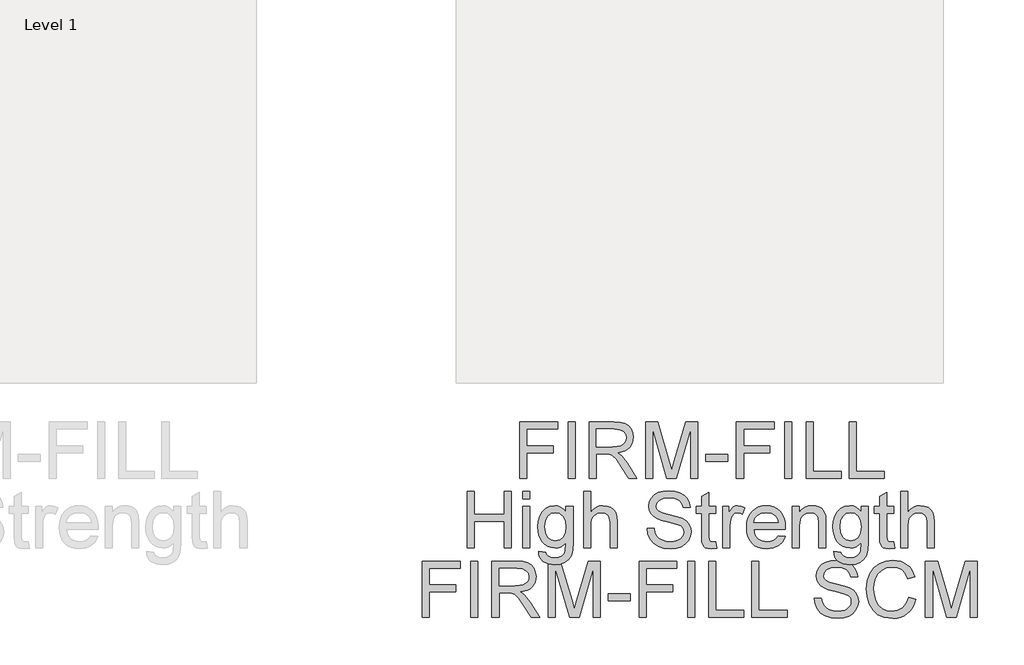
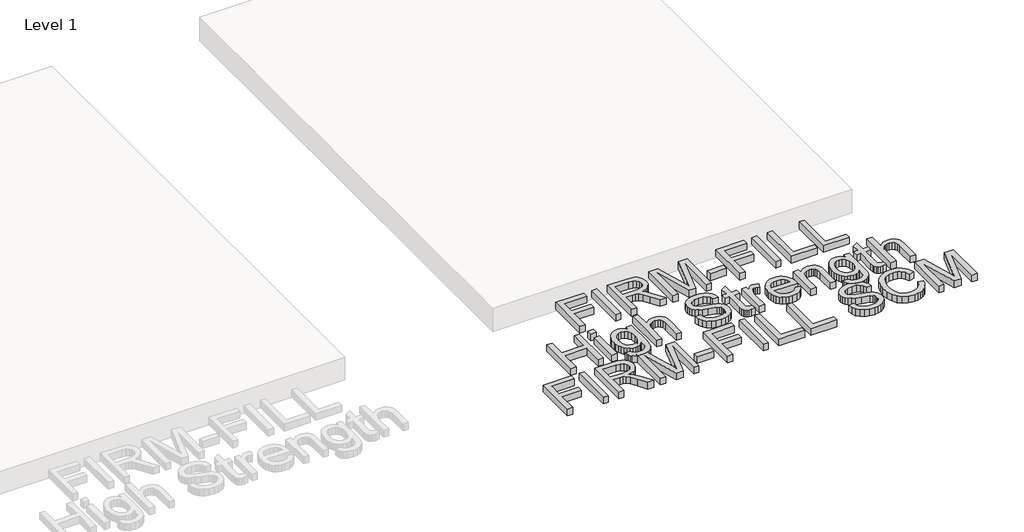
# One storey, part 2 of 2: 1 proxy.
"""IFC4 building model written with IfcOpenShell, lengths in millimetres."""

import ifcopenshell
import ifcopenshell.guid

model = None  # the IFC model being written
_history = None  # IfcOwnerHistory: only IFC2X3 demands one
_inside = {}  # id of a spatial element -> (the spatial element, [elements in it])
_under = {}  # id of a project, library or spatial element -> (it, [spatial elements below it])
_declared = {}  # id of a project -> (the project, [libraries it declares])
_typed = {}  # id of a type object -> (the type object, [elements of that type])
_made_of = {}  # id of a material, layer set ... -> (it, [elements and type objects made of it])


def new_model(schema):
    """Start an empty IFC model of exactly this schema.

    Asked for "IFC4X3", IfcOpenShell would pick the latest addendum, in which some entities
    have other attributes; the version numbers below select the first issue.
    IFC2X3 requires an IfcOwnerHistory on every rooted entity: one is made here for all.
    """
    global model, _history
    if schema == "IFC4X3":
        model = ifcopenshell.file(schema_version=(4, 3, 0, 0))
    else:
        model = ifcopenshell.file(schema=schema)
    _inside.clear()
    _under.clear()
    _declared.clear()
    _typed.clear()
    _made_of.clear()
    _history = None
    if model.schema == "IFC2X3":
        org = make("IfcOrganization", Name="unknown")
        user = make(
            "IfcPersonAndOrganization",
            ThePerson=make("IfcPerson", FamilyName="unknown"),
            TheOrganization=org,
        )
        app = make(
            "IfcApplication",
            ApplicationDeveloper=org,
            Version="unknown",
            ApplicationFullName="unknown",
            ApplicationIdentifier="unknown",
        )
        _history = make(
            "IfcOwnerHistory",
            OwningUser=user,
            OwningApplication=app,
            ChangeAction="ADDED",
            CreationDate=0,
        )
    return model


def make(cls, **values):
    """One entity of the class cls with the attributes given. An attribute that is None is left unset."""
    return model.create_entity(
        cls, **{name: value for name, value in values.items() if value is not None}
    )


def rooted(cls, **values):
    """An entity with a GlobalId (a new one), such as an element, a storey or a relation."""
    return make(cls, GlobalId=ifcopenshell.guid.new(), OwnerHistory=_history, **values)


def si_unit(unit_type, name, prefix=None):
    """IfcSIUnit, for example si_unit("LENGTHUNIT", "METRE", prefix="MILLI")."""
    return make("IfcSIUnit", UnitType=unit_type, Prefix=prefix, Name=name)


def assignment(units):
    """IfcUnitAssignment: the units of a project."""
    return None if units is None else make("IfcUnitAssignment", Units=units)


def point(xyz):
    """IfcCartesianPoint."""
    return None if xyz is None else make("IfcCartesianPoint", Coordinates=xyz)


def direction(xyz):
    """IfcDirection."""
    return None if xyz is None else make("IfcDirection", DirectionRatios=xyz)


def frame(location, z_axis=None, x_axis=None):
    """IfcAxis2Placement3D, a coordinate frame: its origin and axes. An axis left out is left unset."""
    return make(
        "IfcAxis2Placement3D",
        Location=point(location),
        Axis=direction(z_axis),
        RefDirection=direction(x_axis),
    )


def origin():
    """The frame at (0, 0, 0) with its axes left unset."""
    return frame((0.0, 0.0, 0.0))


def origin_with_axes():
    """The frame at (0, 0, 0) with the z axis (0, 0, 1) and the x axis (1, 0, 0) written out."""
    return frame((0.0, 0.0, 0.0), z_axis=(0.0, 0.0, 1.0), x_axis=(1.0, 0.0, 0.0))


def place(relative_to, where):
    """IfcLocalPlacement: puts the frame where relative to a parent placement (None: the world)."""
    return make(
        "IfcLocalPlacement", PlacementRelTo=relative_to, RelativePlacement=where
    )


def context(
    kind, dimensions, precision=None, world=None, true_north=None, identifier=None
):
    """IfcGeometricRepresentationContext, for example the 3D "Model" context."""
    return make(
        "IfcGeometricRepresentationContext",
        ContextIdentifier=identifier,
        ContextType=kind,
        CoordinateSpaceDimension=dimensions,
        Precision=precision,
        WorldCoordinateSystem=world,
        TrueNorth=true_north,
    )


def project(units=None, contexts=None):
    """IfcProject with its units and contexts."""
    return rooted(
        "IfcProject",
        Name="project",
        RepresentationContexts=contexts,
        UnitsInContext=assignment(units),
    )


def spatial(cls, under=None, at=None, **own):
    """A site, building, storey or space (cls), placed at a placement, below another one or the project."""
    s = rooted(cls, ObjectPlacement=at, **own)
    if under is not None:
        _under.setdefault(under.id(), (under, []))[1].append(s)
    return s


def polyline(points):
    """IfcPolyline through the points."""
    return make("IfcPolyline", Points=[point(p) for p in points])


def outline(outer, holes=None, kind="AREA"):
    """IfcArbitraryClosedProfileDef: a profile drawn as a closed curve; with holes, ...WithVoids."""
    if holes is None:
        return make("IfcArbitraryClosedProfileDef", ProfileType=kind, OuterCurve=outer)
    return make(
        "IfcArbitraryProfileDefWithVoids",
        ProfileType=kind,
        OuterCurve=outer,
        InnerCurves=holes,
    )


def extrude(swept, where, along, depth):
    """IfcExtrudedAreaSolid: the profile swept, set in the frame where, extruded along a direction by depth."""
    return make(
        "IfcExtrudedAreaSolid",
        SweptArea=swept,
        Position=where,
        ExtrudedDirection=direction(along),
        Depth=depth,
    )


def shape(context_of_items, identifier, shape_type, items):
    """IfcShapeRepresentation: the items that make up one representation, for example the "Body"."""
    return make(
        "IfcShapeRepresentation",
        ContextOfItems=context_of_items,
        RepresentationIdentifier=identifier,
        RepresentationType=shape_type,
        Items=items,
    )


def made_of(thing, what):
    """Note that an element or type object is made of a material, layer set ...; save() writes the relation."""
    if what is not None:
        _made_of.setdefault(what.id(), (what, []))[1].append(thing)
    return thing


def element(
    cls,
    number,
    at=None,
    inside=None,
    cuts=None,
    type_object=None,
    material=None,
    context=None,
    identifier="Body",
    shape_type=None,
    held_by="IfcProductDefinitionShape",
    body=None,
    shapes=None,
    **own,
):
    """One element of the class cls, such as IfcWall. Its Tag is "e" and its number.

    at: its placement. inside: the storey or other place that contains it. cuts: it is an
    opening in that element (IfcRelVoidsElement). A single representation is given by context,
    identifier, shape_type and body (its items); several are given by shapes. held_by: the class
    of the entity that holds the representations. save() writes the other relations.
    """
    e = rooted(cls, Tag="e%d" % number, ObjectPlacement=at, **own)
    if body is not None:
        shapes = [shape(context, identifier, shape_type, body)]
    if shapes is not None:
        e.Representation = make(held_by, Representations=shapes)
    if inside is not None:
        _inside.setdefault(inside.id(), (inside, []))[1].append(e)
    if cuts is not None:
        rooted(
            "IfcRelVoidsElement", RelatingBuildingElement=cuts, RelatedOpeningElement=e
        )
    if type_object is not None:
        _typed.setdefault(type_object.id(), (type_object, []))[1].append(e)
    return made_of(e, material)


def aggregate(whole, parts):
    """IfcRelAggregates: a whole, such as a stair, and the parts it consists of."""
    return rooted("IfcRelAggregates", RelatingObject=whole, RelatedObjects=parts)


def save(model, path):
    """Write the relations noted so far, then the file.

    IfcRelAggregates (storeys below a building ...), IfcRelContainedInSpatialStructure (elements
    in a storey), IfcRelDefinesByType, IfcRelAssociatesMaterial and IfcRelDeclares: one each for
    every whole, place, type object, material and project.
    """
    for whole, parts in _under.values():
        aggregate(whole, parts)
    for where, things in _inside.values():
        rooted(
            "IfcRelContainedInSpatialStructure",
            RelatedElements=things,
            RelatingStructure=where,
        )
    for kind, things in _typed.values():
        rooted("IfcRelDefinesByType", RelatedObjects=things, RelatingType=kind)
    for what, things in _made_of.values():
        rooted("IfcRelAssociatesMaterial", RelatedObjects=things, RelatingMaterial=what)
    for by, libraries in _declared.values():
        rooted("IfcRelDeclares", RelatingContext=by, RelatedDefinitions=libraries)
    model.write(path)


model = new_model("IFC4")

# Units and contexts
model_context = context("Model", 3, world=origin())
ifc_project = project(units=[si_unit("LENGTHUNIT", "METRE", prefix="MILLI")], contexts=[model_context])

# Site, building, storey
site = spatial("IfcSite", under=ifc_project)
building = spatial("IfcBuilding", under=site)
storey = spatial("IfcBuildingStorey", under=building, Name="Level 1", Elevation=0.0)

# Proxy
placement = place(None, origin())
element("IfcBuildingElementProxy", 1, Name="600mm Arial", ObjectType="600mm Arial", at=placement, inside=storey, context=model_context, shape_type="SweptSolid", body=[
    extrude(outline(polyline([(-8382.1227816, 282.4279894), (-8382.1227816, 582.5387586), (-8180.4858585, 582.5387586), (-8180.4858585, 545.0249125), (-8344.6089355, 545.0249125), (-8344.6089355, 455.9295279), (-8203.9320124, 455.9295279), (-8203.9320124, 418.4156817), (-8344.6089355, 418.4156817), (-8344.6089355, 282.4279894), (-8382.1227816, 282.4279894)])), origin_with_axes(), (0.0, 0.0, 1.0), 50.8),
    extrude(outline(polyline([(-8124.2150893, 282.4279894), (-8124.2150893, 582.5387586), (-8086.7012432, 582.5387586), (-8086.7012432, 282.4279894), (-8124.2150893, 282.4279894)])), origin_with_axes(), (0.0, 0.0, 1.0), 50.8),
    extrude(outline(polyline([(-8011.6735509, 282.4279894), (-8011.6735509, 582.5387586), (-7882.3533585, 582.5387586), (-7847.5962672, 580.5146961), (-7822.3092239, 574.4425086), (-7803.8270605, 563.2323163), (-7789.4846085, 545.7942394), (-7780.2801614, 524.1706577), (-7777.2120124, 500.4039509), (-7782.2950653, 470.8398163), (-7797.5442239, 446.3312586), (-7809.0955761, 436.3437466), (-7823.417421, 428.3619798), (-7860.3725893, 418.4156817), (-7839.0512432, 402.3697202), (-7808.6445124, 363.7568356), (-7758.6016278, 282.4279894), (-7802.1968201, 282.4279894), (-7841.2493201, 344.6335663), (-7869.4579739, 385.810874), (-7889.2773009, 405.2638548), (-7907.1183585, 412.4076048), (-7928.8793201, 413.7264509), (-7974.1597047, 413.7264509), (-7974.1597047, 282.4279894), (-8011.6735509, 282.4279894)]), holes=[polyline([(-7974.1597047, 451.2402971), (-7890.1931662, 451.2402971), (-7866.0784307, 452.5683019), (-7847.3673009, 456.5523163), (-7833.2812912, 463.4579413), (-7823.0419162, 473.5507779), (-7816.804873, 485.7592634), (-7814.7258585, 499.0118356), (-7818.6915557, 517.3108259), (-7830.588647, 532.0562586), (-7851.0582384, 541.782749), (-7880.7414355, 545.0249125), (-7974.1597047, 545.0249125), (-7974.1597047, 451.2402971)])]), origin_with_axes(), (0.0, 0.0, 1.0), 50.8),
    extrude(outline(polyline([(-7711.5627816, 282.4279894), (-7711.5627816, 582.5387586), (-7647.0125893, 582.5387586), (-7585.6129739, 371.0104894), (-7573.2304739, 326.8291433), (-7559.8222047, 374.6739509), (-7499.4483585, 582.5387586), (-7434.8981662, 582.5387586), (-7434.8981662, 282.4279894), (-7472.4120124, 282.4279894), (-7472.4120124, 545.0249125), (-7547.8060509, 282.4279894), (-7598.654897, 282.4279894), (-7674.0489355, 545.0249125), (-7674.0489355, 282.4279894), (-7711.5627816, 282.4279894)])), origin_with_axes(), (0.0, 0.0, 1.0), 50.8),
    extrude(outline(polyline([(-7392.6950893, 371.523374), (-7392.6950893, 409.0372202), (-7275.4643201, 409.0372202), (-7275.4643201, 371.523374), (-7392.6950893, 371.523374)])), origin_with_axes(), (0.0, 0.0, 1.0), 50.8),
    extrude(outline(polyline([(-7228.5720124, 282.4279894), (-7228.5720124, 582.5387586), (-7026.9350893, 582.5387586), (-7026.9350893, 545.0249125), (-7191.0581662, 545.0249125), (-7191.0581662, 455.9295279), (-7050.3812432, 455.9295279), (-7050.3812432, 418.4156817), (-7191.0581662, 418.4156817), (-7191.0581662, 282.4279894), (-7228.5720124, 282.4279894)])), origin_with_axes(), (0.0, 0.0, 1.0), 50.8),
    extrude(outline(polyline([(-6970.6643201, 282.4279894), (-6970.6643201, 582.5387586), (-6933.1504739, 582.5387586), (-6933.1504739, 282.4279894), (-6970.6643201, 282.4279894)])), origin_with_axes(), (0.0, 0.0, 1.0), 50.8),
    extrude(outline(polyline([(-6858.1227816, 282.4279894), (-6858.1227816, 582.5387586), (-6820.6089355, 582.5387586), (-6820.6089355, 319.9418356), (-6670.5535509, 319.9418356), (-6670.5535509, 282.4279894), (-6858.1227816, 282.4279894)])), origin_with_axes(), (0.0, 0.0, 1.0), 50.8),
    extrude(outline(polyline([(-6628.3504739, 282.4279894), (-6628.3504739, 582.5387586), (-6590.8366278, 582.5387586), (-6590.8366278, 319.9418356), (-6440.7812432, 319.9418356), (-6440.7812432, 282.4279894), (-6628.3504739, 282.4279894)])), origin_with_axes(), (0.0, 0.0, 1.0), 50.8),
    extrude(outline(polyline([(-8661.1320124, -88.0212414), (-8661.1320124, 212.0895279), (-8623.6181662, 212.0895279), (-8623.6181662, 90.1695279), (-8464.1843201, 90.1695279), (-8464.1843201, 212.0895279), (-8426.6704739, 212.0895279), (-8426.6704739, -88.0212414), (-8464.1843201, -88.0212414), (-8464.1843201, 52.6556817), (-8623.6181662, 52.6556817), (-8623.6181662, -88.0212414), (-8661.1320124, -88.0212414)])), origin_with_axes(), (0.0, 0.0, 1.0), 50.8),
    extrude(outline(polyline([(-8365.7104739, -88.0212414), (-8365.7104739, 132.3726048), (-8328.1966278, 132.3726048), (-8328.1966278, -88.0212414), (-8365.7104739, -88.0212414)])), origin_with_axes(), (0.0, 0.0, 1.0), 50.8),
    extrude(outline(polyline([(-8365.7104739, 174.5756817), (-8365.7104739, 212.0895279), (-8328.1966278, 212.0895279), (-8328.1966278, 174.5756817), (-8365.7104739, 174.5756817)])), origin_with_axes(), (0.0, 0.0, 1.0), 50.8),
    extrude(outline(polyline([(-8281.3043201, -106.7781644), (-8243.7904739, -111.4673952), (-8239.6507624, -123.1904721), (-8231.6277816, -131.2500875), (-8215.8565797, -137.5146067), (-8195.2129739, -139.6027798), (-8173.1955701, -137.2398471), (-8156.819897, -130.1510491), (-8145.4631662, -118.7943183), (-8138.5025893, -103.6275875), (-8135.9381662, -59.8858567), (-8148.4214114, -72.1950875), (-8162.3517239, -80.9873952), (-8177.7291037, -86.2627798), (-8194.5535509, -88.0212414), (-8215.1215977, -85.9742822), (-8233.230546, -79.8334048), (-8248.8803958, -69.5986091), (-8262.071147, -55.2698952), (-8272.5371987, -38.0791019), (-8280.0129499, -19.2580683), (-8284.4984006, 1.1932058), (-8285.9935509, 23.2747202), (-8283.3100653, 53.5623884), (-8275.2596085, 81.4138548), (-8262.1260989, 105.0157058), (-8244.1934547, 122.5545279), (-8222.0753057, 133.4350086), (-8196.3852816, 137.0618356), (-8178.8418802, 135.0102971), (-8162.9195605, 128.8556817), (-8148.6183225, 118.5979894), (-8135.9381662, 104.2372202), (-8135.9381662, 132.3726048), (-8098.4243201, 132.3726048), (-8098.4243201, -57.9075875), (-8100.9887432, -101.84165), (-8108.6820124, -130.7738375), (-8121.9345845, -149.9612173), (-8141.1769162, -164.6608567), (-8165.9877095, -174.0026837), (-8195.9456662, -177.116626), (-8230.849296, -172.7296308), (-8258.3344162, -159.5686452), (-8268.6859847, -149.6887474), (-8275.9648249, -137.5970346), (-8280.1709367, -123.293507), (-8281.3043201, -106.7781644)]), holes=[polyline([(-8248.4797047, 25.8391433), (-8244.477373, -8.5699192), (-8232.4703778, -32.2267221), (-8214.418671, -45.9372269), (-8192.2822047, -50.5073952), (-8170.3105941, -45.9647029), (-8152.1673009, -32.336626), (-8139.9954499, -8.9820587), (-8135.9381662, 24.7401048), (-8140.1145124, 57.2624846), (-8152.6435509, 80.6811625), (-8171.0524451, 94.8312827), (-8192.8683585, 99.5479894), (-8214.2904499, 94.9045519), (-8232.2505701, 80.9742394), (-8244.422421, 57.9035904), (-8248.4797047, 25.8391433)])]), origin_with_axes(), (0.0, 0.0, 1.0), 50.8),
    extrude(outline(polyline([(-8042.1535509, -88.0212414), (-8042.1535509, 212.0895279), (-8004.6397047, 212.0895279), (-8004.6397047, 101.7460663), (-7990.86051, 117.1967154), (-7975.3869643, 128.2328933), (-7958.2190677, 134.8546), (-7939.3568201, 137.0618356), (-7916.6983105, 134.6531096), (-7897.2270124, 127.4269317), (-7881.8954259, 115.9511384), (-7871.6560509, 100.7935663), (-7865.8860989, 79.9667875), (-7863.9627816, 51.483374), (-7863.9627816, -88.0212414), (-7901.4766278, -88.0212414), (-7901.4766278, 47.6001048), (-7904.4623489, 71.0828933), (-7913.4195124, 87.1654894), (-7927.8535509, 96.4523644), (-7947.269897, 99.5479894), (-7963.1235268, 97.4598163), (-7978.0063393, 91.1952971), (-7990.3338874, 81.3589029), (-7998.5217239, 68.5551048), (-8003.1102095, 51.5383259), (-8004.6397047, 29.0629894), (-8004.6397047, -88.0212414), (-8042.1535509, -88.0212414)])), origin_with_axes(), (0.0, 0.0, 1.0), 50.8),
    extrude(outline(polyline([(-7704.5289355, 15.1418356), (-7667.0150893, 15.1418356), (-7662.710522, -5.6757846), (-7654.9256662, -22.4086452), (-7642.7812912, -35.6886933), (-7625.3981662, -46.147876), (-7604.1500893, -52.9344385), (-7580.4108585, -55.196626), (-7559.5108105, -53.4839577), (-7541.2118201, -48.3459529), (-7526.3839595, -40.2130683), (-7515.8973009, -29.5157606), (-7509.6602576, -17.2340058), (-7507.5812432, -4.3477798), (-7509.1382143, 8.2087346), (-7513.8091278, 19.0617394), (-7523.2974932, 28.3211384), (-7539.3068201, 36.0968356), (-7593.9290316, 50.4209702), (-7629.7851614, 59.9001769), (-7652.7275893, 68.9214509), (-7671.4020845, 81.5420759), (-7684.6363393, 96.8370279), (-7692.5219403, 114.4765952), (-7695.1504739, 134.1310663), (-7691.8991518, 156.1026769), (-7682.1451855, 176.5905856), (-7666.1450172, 193.9553933), (-7644.1550893, 206.5577009), (-7617.7598489, 214.2234942), (-7588.5437432, 216.7787586), (-7556.8914355, 214.1044317), (-7529.1956662, 206.0814509), (-7506.4455701, 192.8746721), (-7489.6302816, 174.6489509), (-7478.9879259, 152.5399606), (-7474.7566278, 127.683374), (-7512.2704739, 127.683374), (-7519.1577816, 150.067124), (-7533.5185509, 166.2229894), (-7555.9572528, 176.0044317), (-7587.0783585, 179.2649125), (-7618.9321566, 176.0410663), (-7640.7847047, 166.3695279), (-7653.423647, 152.1369798), (-7657.6366278, 135.2301048), (-7654.6509066, 120.8143836), (-7645.6937432, 109.2195279), (-7624.5189355, 98.8519317), (-7584.4406662, 88.2645279), (-7543.0801855, 78.2083259), (-7518.0587432, 69.4343356), (-7496.6732864, 55.8245759), (-7481.7538393, 39.0276048), (-7472.9890076, 19.2265952), (-7470.067397, -3.3952798), (-7473.428623, -26.5208808), (-7483.5123009, -48.2726837), (-7499.9062912, -66.9929721), (-7522.1984547, -81.0240298), (-7549.0058345, -89.7888616), (-7578.9454739, -92.7104721), (-7615.6991518, -89.5598952), (-7645.9501855, -80.1081644), (-7670.0466037, -64.3186452), (-7688.3364355, -42.1547029), (-7700.0778297, -15.1549914), (-7704.5289355, 15.1418356)])), origin_with_axes(), (0.0, 0.0, 1.0), 50.8),
    extrude(outline(polyline([(-7338.7689355, -56.7352798), (-7334.0797047, -89.1202798), (-7362.1418201, -92.7104721), (-7380.1477335, -91.153501), (-7393.5743201, -86.4825875), (-7403.0626855, -79.2838856), (-7409.2539355, -70.1435491), (-7412.6609547, -54.4456164), (-7413.7966278, -27.574126), (-7413.7966278, 94.8587586), (-7441.9320124, 94.8587586), (-7441.9320124, 132.3726048), (-7413.7966278, 132.3726048), (-7413.7966278, 185.9324125), (-7376.2827816, 207.9864509), (-7376.2827816, 132.3726048), (-7338.7689355, 132.3726048), (-7338.7689355, 94.8587586), (-7376.2827816, 94.8587586), (-7376.2827816, -26.4750875), (-7374.3045124, -45.8181644), (-7367.8934547, -52.6688375), (-7355.1079739, -55.196626), (-7338.7689355, -56.7352798)])), origin_with_axes(), (0.0, 0.0, 1.0), 50.8),
    extrude(outline(polyline([(-7301.2550893, -88.0212414), (-7301.2550893, 132.3726048), (-7268.4304739, 132.3726048), (-7268.4304739, 99.7677971), (-7256.3044162, 118.6712586), (-7245.1308585, 129.8081817), (-7233.9206662, 135.2484221), (-7221.6847047, 137.0618356), (-7203.0010509, 134.1677009), (-7184.0243201, 125.4852971), (-7196.5533585, 91.8547202), (-7209.7418201, 97.6246721), (-7222.9302816, 99.5479894), (-7234.1313153, 97.6979413), (-7244.1417239, 92.1477971), (-7252.2288153, 83.3188548), (-7257.659897, 71.6324125), (-7262.2209066, 50.6774125), (-7263.7412432, 27.8174125), (-7263.7412432, -88.0212414), (-7301.2550893, -88.0212414)])), origin_with_axes(), (0.0, 0.0, 1.0), 50.8),
    extrude(outline(polyline([(-7006.2731662, -22.3720106), (-6969.4920124, -27.0612414), (-6982.7445845, -54.7753279), (-7003.8919162, -75.4922029), (-7032.4577576, -88.4059048), (-7067.9658585, -92.7104721), (-7091.2425773, -90.8535551), (-7111.9823489, -85.2828039), (-7130.1851735, -75.9982185), (-7145.8510509, -62.9997991), (-7158.4487792, -46.6493123), (-7167.4471566, -27.308525), (-7172.8461831, -4.9774373), (-7174.6458585, 20.3439509), (-7172.8278658, 46.523963), (-7167.3738874, 69.5991913), (-7158.2839235, 89.569636), (-7145.5579739, 106.4352971), (-7129.9333105, 119.8344077), (-7112.1472047, 129.4052009), (-7092.1996566, 135.1476769), (-7070.0906662, 137.0618356), (-7048.6937612, 135.1522562), (-7029.3438153, 129.4235183), (-7012.0408285, 119.8756216), (-6996.7848009, 106.5085663), (-6984.3313213, 89.6795399), (-6975.4359787, 69.7457298), (-6970.0987732, 46.707136), (-6968.3197047, 20.5637586), (-6968.5395124, 10.4526048), (-7137.1320124, 10.4526048), (-7130.6385268, -17.6278279), (-7115.5542239, -38.2714337), (-7093.7841037, -50.9653279), (-7067.2331662, -55.196626), (-7047.2673009, -53.2366741), (-7030.4520124, -47.3568183), (-7016.7873009, -37.1907125), (-7006.2731662, -22.3720106)]), holes=[polyline([(-7137.1320124, 47.9664509), (-7005.8335509, 47.9664509), (-7010.9074451, 67.7857779), (-7020.8537432, 81.963374), (-7042.7246085, 95.1518356), (-7070.2372047, 99.5479894), (-7095.524248, 96.040225), (-7116.4334547, 85.5169317), (-7130.9682384, 69.1137827), (-7137.1320124, 47.9664509)])]), origin_with_axes(), (0.0, 0.0, 1.0), 50.8),
    extrude(outline(polyline([(-6930.8058585, -88.0212414), (-6930.8058585, 132.3726048), (-6893.2920124, 132.3726048), (-6893.2920124, 101.5995279), (-6880.259248, 117.1142875), (-6864.6071085, 128.1962586), (-6846.3355941, 134.8454413), (-6825.4447047, 137.0618356), (-6806.9533826, 135.2758981), (-6790.0190316, 129.9180856), (-6775.8963874, 121.6569798), (-6765.8401855, 111.1611625), (-6754.5933585, 83.5752971), (-6752.6150893, 47.3070279), (-6752.6150893, -88.0212414), (-6790.1289355, -88.0212414), (-6790.1289355, 42.2514509), (-6794.4518201, 75.4424125), (-6800.432421, 85.3246), (-6809.7284547, 92.9903933), (-6821.6438634, 97.9085904), (-6835.4825893, 99.5479894), (-6857.4541999, 95.8662106), (-6876.183647, 84.820874), (-6883.6685569, 75.8041793), (-6889.014921, 63.4812106), (-6893.2920124, 28.9164509), (-6893.2920124, -88.0212414), (-6930.8058585, -88.0212414)])), origin_with_axes(), (0.0, 0.0, 1.0), 50.8),
    extrude(outline(polyline([(-6710.4120124, -106.7781644), (-6672.8981662, -111.4673952), (-6668.7584547, -123.1904721), (-6660.7354739, -131.2500875), (-6644.964272, -137.5146067), (-6624.3206662, -139.6027798), (-6602.3032624, -137.2398471), (-6585.9275893, -130.1510491), (-6574.5708585, -118.7943183), (-6567.6102816, -103.6275875), (-6565.0458585, -59.8858567), (-6577.5291037, -72.1950875), (-6591.4594162, -80.9873952), (-6606.836796, -86.2627798), (-6623.6612432, -88.0212414), (-6644.22929, -85.9742822), (-6662.3382384, -79.8334048), (-6677.9880881, -69.5986091), (-6691.1788393, -55.2698952), (-6701.644891, -38.0791019), (-6709.1206422, -19.2580683), (-6713.6060929, 1.1932058), (-6715.1012432, 23.2747202), (-6712.4177576, 53.5623884), (-6704.3673009, 81.4138548), (-6691.2337912, 105.0157058), (-6673.301147, 122.5545279), (-6651.182998, 133.4350086), (-6625.4929739, 137.0618356), (-6607.9495725, 135.0102971), (-6592.0272528, 128.8556817), (-6577.7260148, 118.5979894), (-6565.0458585, 104.2372202), (-6565.0458585, 132.3726048), (-6527.5320124, 132.3726048), (-6527.5320124, -57.9075875), (-6530.0964355, -101.84165), (-6537.7897047, -130.7738375), (-6551.0422768, -149.9612173), (-6570.2846085, -164.6608567), (-6595.0954018, -174.0026837), (-6625.0533585, -177.116626), (-6659.9569884, -172.7296308), (-6687.4421085, -159.5686452), (-6697.7936771, -149.6887474), (-6705.0725172, -137.5970346), (-6709.278629, -123.293507), (-6710.4120124, -106.7781644)]), holes=[polyline([(-6677.587397, 25.8391433), (-6673.5850653, -8.5699192), (-6661.5780701, -32.2267221), (-6643.5263634, -45.9372269), (-6621.389897, -50.5073952), (-6599.4182864, -45.9647029), (-6581.2749932, -32.336626), (-6569.1031422, -8.9820587), (-6565.0458585, 24.7401048), (-6569.2222047, 57.2624846), (-6581.7512432, 80.6811625), (-6600.1601374, 94.8312827), (-6621.9760509, 99.5479894), (-6643.3981422, 94.9045519), (-6661.3582624, 80.9742394), (-6673.5301134, 57.9035904), (-6677.587397, 25.8391433)])]), origin_with_axes(), (0.0, 0.0, 1.0), 50.8),
    extrude(outline(polyline([(-6391.5443201, -56.7352798), (-6386.8550893, -89.1202798), (-6414.9172047, -92.7104721), (-6432.9231182, -91.153501), (-6446.3497047, -86.4825875), (-6455.8380701, -79.2838856), (-6462.0293201, -70.1435491), (-6465.4363393, -54.4456164), (-6466.5720124, -27.574126), (-6466.5720124, 94.8587586), (-6494.707397, 94.8587586), (-6494.707397, 132.3726048), (-6466.5720124, 132.3726048), (-6466.5720124, 185.9324125), (-6429.0581662, 207.9864509), (-6429.0581662, 132.3726048), (-6391.5443201, 132.3726048), (-6391.5443201, 94.8587586), (-6429.0581662, 94.8587586), (-6429.0581662, -26.4750875), (-6427.079897, -45.8181644), (-6420.6688393, -52.6688375), (-6407.8833585, -55.196626), (-6391.5443201, -56.7352798)])), origin_with_axes(), (0.0, 0.0, 1.0), 50.8),
    extrude(outline(polyline([(-6354.0304739, -88.0212414), (-6354.0304739, 212.0895279), (-6316.5166278, 212.0895279), (-6316.5166278, 101.7460663), (-6302.7374331, 117.1967154), (-6287.2638874, 128.2328933), (-6270.0959908, 134.8546), (-6251.2337432, 137.0618356), (-6228.5752335, 134.6531096), (-6209.1039355, 127.4269317), (-6193.7723489, 115.9511384), (-6183.5329739, 100.7935663), (-6177.763022, 79.9667875), (-6175.8397047, 51.483374), (-6175.8397047, -88.0212414), (-6213.3535509, -88.0212414), (-6213.3535509, 47.6001048), (-6216.339272, 71.0828933), (-6225.2964355, 87.1654894), (-6239.7304739, 96.4523644), (-6259.1468201, 99.5479894), (-6275.0004499, 97.4598163), (-6289.8832624, 91.1952971), (-6302.2108105, 81.3589029), (-6310.398647, 68.5551048), (-6314.9871326, 51.5383259), (-6316.5166278, 29.0629894), (-6316.5166278, -88.0212414), (-6354.0304739, -88.0212414)])), origin_with_axes(), (0.0, 0.0, 1.0), 50.8),
    extrude(outline(polyline([(-8900.2827816, -458.4704721), (-8900.2827816, -158.3597029), (-8698.6458585, -158.3597029), (-8698.6458585, -195.8735491), (-8862.7689355, -195.8735491), (-8862.7689355, -284.9689337), (-8722.0920124, -284.9689337), (-8722.0920124, -322.4827798), (-8862.7689355, -322.4827798), (-8862.7689355, -458.4704721), (-8900.2827816, -458.4704721)])), origin_with_axes(), (0.0, 0.0, 1.0), 50.8),
    extrude(outline(polyline([(-8642.3750893, -458.4704721), (-8642.3750893, -158.3597029), (-8604.8612432, -158.3597029), (-8604.8612432, -458.4704721), (-8642.3750893, -458.4704721)])), origin_with_axes(), (0.0, 0.0, 1.0), 50.8),
    extrude(outline(polyline([(-8529.8335509, -458.4704721), (-8529.8335509, -158.3597029), (-8400.5133585, -158.3597029), (-8365.7562672, -160.3837654), (-8340.4692239, -166.4559529), (-8321.9870605, -177.6661452), (-8307.6446085, -195.1042221), (-8298.4401614, -216.7278039), (-8295.3720124, -240.4945106), (-8300.4550653, -270.0586452), (-8315.7042239, -294.5672029), (-8327.2555761, -304.5547149), (-8341.577421, -312.5364817), (-8378.5325893, -322.4827798), (-8357.2112432, -338.5287414), (-8326.8045124, -377.141626), (-8276.7616278, -458.4704721), (-8320.3568201, -458.4704721), (-8359.4093201, -396.2648952), (-8387.6179739, -355.0875875), (-8407.4373009, -335.6346067), (-8425.2783585, -328.4908567), (-8447.0393201, -327.1720106), (-8492.3197047, -327.1720106), (-8492.3197047, -458.4704721), (-8529.8335509, -458.4704721)]), holes=[polyline([(-8492.3197047, -289.6581644), (-8408.3531662, -289.6581644), (-8384.2384307, -288.3301596), (-8365.5273009, -284.3461452), (-8351.4412912, -277.4405202), (-8341.2019162, -267.3476837), (-8334.964873, -255.1391981), (-8332.8858585, -241.886626), (-8336.8515557, -223.5876356), (-8348.748647, -208.8422029), (-8369.2182384, -199.1157125), (-8398.9014355, -195.8735491), (-8492.3197047, -195.8735491), (-8492.3197047, -289.6581644)])]), origin_with_axes(), (0.0, 0.0, 1.0), 50.8),
    extrude(outline(polyline([(-8229.7227816, -458.4704721), (-8229.7227816, -158.3597029), (-8165.1725893, -158.3597029), (-8103.7729739, -369.8879721), (-8091.3904739, -414.0693183), (-8077.9822047, -366.2245106), (-8017.6083585, -158.3597029), (-7953.0581662, -158.3597029), (-7953.0581662, -458.4704721), (-7990.5720124, -458.4704721), (-7990.5720124, -195.8735491), (-8065.9660509, -458.4704721), (-8116.814897, -458.4704721), (-8192.2089355, -195.8735491), (-8192.2089355, -458.4704721), (-8229.7227816, -458.4704721)])), origin_with_axes(), (0.0, 0.0, 1.0), 50.8),
    extrude(outline(polyline([(-7910.8550893, -369.3750875), (-7910.8550893, -331.8612414), (-7793.6243201, -331.8612414), (-7793.6243201, -369.3750875), (-7910.8550893, -369.3750875)])), origin_with_axes(), (0.0, 0.0, 1.0), 50.8),
    extrude(outline(polyline([(-7746.7320124, -458.4704721), (-7746.7320124, -158.3597029), (-7545.0950893, -158.3597029), (-7545.0950893, -195.8735491), (-7709.2181662, -195.8735491), (-7709.2181662, -284.9689337), (-7568.5412432, -284.9689337), (-7568.5412432, -322.4827798), (-7709.2181662, -322.4827798), (-7709.2181662, -458.4704721), (-7746.7320124, -458.4704721)])), origin_with_axes(), (0.0, 0.0, 1.0), 50.8),
    extrude(outline(polyline([(-7488.8243201, -458.4704721), (-7488.8243201, -158.3597029), (-7451.3104739, -158.3597029), (-7451.3104739, -458.4704721), (-7488.8243201, -458.4704721)])), origin_with_axes(), (0.0, 0.0, 1.0), 50.8),
    extrude(outline(polyline([(-7376.2827816, -458.4704721), (-7376.2827816, -158.3597029), (-7338.7689355, -158.3597029), (-7338.7689355, -420.956626), (-7188.7135509, -420.956626), (-7188.7135509, -458.4704721), (-7376.2827816, -458.4704721)])), origin_with_axes(), (0.0, 0.0, 1.0), 50.8),
    extrude(outline(polyline([(-7146.5104739, -458.4704721), (-7146.5104739, -158.3597029), (-7108.9966278, -158.3597029), (-7108.9966278, -420.956626), (-6958.9412432, -420.956626), (-6958.9412432, -458.4704721), (-7146.5104739, -458.4704721)])), origin_with_axes(), (0.0, 0.0, 1.0), 50.8),
    extrude(outline(polyline([(-6813.5750893, -355.3073952), (-6776.0612432, -355.3073952), (-6771.7566759, -376.1250154), (-6763.9718201, -392.857876), (-6751.8274451, -406.1379241), (-6734.4443201, -416.5971067), (-6713.1962432, -423.3836692), (-6689.4570124, -425.6458567), (-6668.5569643, -423.9331885), (-6650.2579739, -418.7951837), (-6635.4301134, -410.6622991), (-6624.9434547, -399.9649914), (-6618.7064114, -387.6832366), (-6616.627397, -374.7970106), (-6618.1843682, -362.2404962), (-6622.8552816, -351.3874914), (-6632.343647, -342.1280923), (-6648.3529739, -334.3523952), (-6702.9751855, -320.0282606), (-6738.8313153, -310.5490539), (-6761.7737432, -301.5277798), (-6780.4482384, -288.9071548), (-6793.6824932, -273.6122029), (-6801.5680941, -255.9726356), (-6804.1966278, -236.3181644), (-6800.9453057, -214.3465539), (-6791.1913393, -193.8586452), (-6775.191171, -176.4938375), (-6753.2012432, -163.8915298), (-6726.8060028, -156.2257366), (-6697.589897, -153.6704721), (-6665.9375893, -156.3447991), (-6638.2418201, -164.3677798), (-6615.4917239, -177.5745587), (-6598.6764355, -195.8002798), (-6588.0340797, -217.9092702), (-6583.8027816, -242.7658567), (-6621.3166278, -242.7658567), (-6628.2039355, -220.3821067), (-6642.5647047, -204.2262414), (-6665.0034066, -194.4447991), (-6696.1245124, -191.1843183), (-6727.9783105, -194.4081644), (-6749.8308585, -204.0797029), (-6762.4698009, -218.312251), (-6766.6827816, -235.219126), (-6763.6970605, -249.6348471), (-6754.739897, -261.2297029), (-6733.5650893, -271.5972991), (-6693.4868201, -282.1847029), (-6652.1263393, -292.2409048), (-6627.104897, -301.0148952), (-6605.7194403, -314.6246548), (-6590.7999932, -331.421626), (-6582.0351614, -351.2226356), (-6579.1135509, -373.8445106), (-6582.4747768, -396.9701116), (-6592.5584547, -418.7219144), (-6608.9524451, -437.4422029), (-6631.2446085, -451.4732606), (-6658.0519884, -460.2380923), (-6687.9916278, -463.1597029), (-6724.7453057, -460.009126), (-6754.9963393, -450.5573952), (-6779.0927576, -434.767876), (-6797.3825893, -412.6039337), (-6809.1239835, -385.6042221), (-6813.5750893, -355.3073952)])), origin_with_axes(), (0.0, 0.0, 1.0), 50.8),
    extrude(outline(polyline([(-6311.827397, -351.7904721), (-6274.3135509, -361.4620106), (-6281.7366398, -384.7913916), (-6291.6234066, -405.1762654), (-6303.9738513, -422.616632), (-6318.7879739, -437.1124914), (-6335.7314835, -448.5081464), (-6354.4700893, -456.6479), (-6375.0037912, -461.5317522), (-6397.3325893, -463.1597029), (-6440.8453537, -458.2323471), (-6475.4009547, -443.4502798), (-6501.8877816, -419.3263856), (-6521.1942239, -386.3735491), (-6532.9814114, -347.6324433), (-6536.9104739, -306.1437414), (-6532.4685268, -262.3836933), (-6519.1426855, -224.5950875), (-6497.6290076, -193.9777077), (-6468.6235509, -171.7313375), (-6434.223647, -158.1856885), (-6396.5266278, -153.6704721), (-6355.3951134, -159.5136933), (-6337.5013934, -166.8177197), (-6321.3890316, -177.0433567), (-6307.323629, -189.9204241), (-6295.5707864, -205.1787414), (-6279.0027816, -242.839126), (-6316.5166278, -251.7779721), (-6329.5219162, -224.4210731), (-6347.2897047, -205.6549914), (-6370.0398009, -194.8019866), (-6397.9920124, -191.1843183), (-6430.2121566, -195.1958087), (-6456.6806662, -207.2302798), (-6476.7655941, -226.0238375), (-6489.8349932, -250.3125875), (-6497.0062191, -277.7702317), (-6499.3966278, -306.0704721), (-6496.5666037, -340.7268183), (-6488.0765316, -370.6939337), (-6473.6058585, -394.8269866), (-6452.8340316, -411.9811452), (-6427.9316518, -422.2296789), (-6401.0693201, -425.6458567), (-6369.7558826, -420.9932606), (-6343.6628778, -407.0354721), (-6323.9626134, -383.9190298), (-6311.827397, -351.7904721)])), origin_with_axes(), (0.0, 0.0, 1.0), 50.8),
    extrude(outline(polyline([(-6222.7320124, -458.4704721), (-6222.7320124, -158.3597029), (-6158.1818201, -158.3597029), (-6096.7822047, -369.8879721), (-6084.3997047, -414.0693183), (-6070.9914355, -366.2245106), (-6010.6175893, -158.3597029), (-5946.067397, -158.3597029), (-5946.067397, -458.4704721), (-5983.5812432, -458.4704721), (-5983.5812432, -195.8735491), (-6058.9752816, -458.4704721), (-6109.8241278, -458.4704721), (-6185.2181662, -195.8735491), (-6185.2181662, -458.4704721), (-6222.7320124, -458.4704721)])), origin_with_axes(), (0.0, 0.0, 1.0), 50.8),
])

save(model, "model.ifc")
